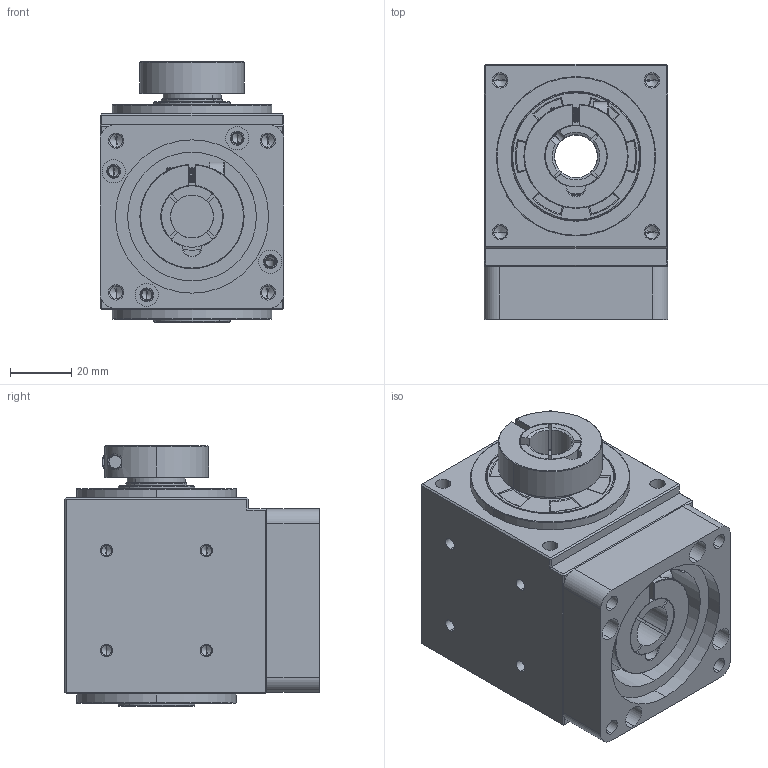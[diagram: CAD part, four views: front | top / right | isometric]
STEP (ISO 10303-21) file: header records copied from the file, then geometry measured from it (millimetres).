
FILE_DESCRIPTION (( 'STEP AP203' ), '1' );
FILE_NAME ('RH60-2(14-50-70-M5).STEP', '2022-03-11T13:48:28', ( '' ), ( '' ), 'SwSTEP 2.0', 'SolidWorks 2016', '' );
FILE_SCHEMA (( 'CONFIG_CONTROL_DESIGN' ));
Length unit declared in the file: millimetre
Products named in the file (8): R60-2(50-70-M5); RH60-2(14-50-70-M5); R60; RH60-(14x13-4x10.5); R60-25x42x5; R60-25x47x5; SN60-34x20x10.5-M5; R60-2-(14)
Assembly tree (8 placements, depth 2):
  RH60-2(14-50-70-M5)
    R60
    R60-25x42x5
    R60-25x47x5
    R60-2(50-70-M5)
    RH60-(14x13-4x10.5)
    R60-2-(14)
    SN60-34x20x10.5-M5  x2
Bounding box: 60 x 83.2 x 85 mm (x, y, z)
Volume: 215381.9 mm3; surface area: 81755.5 mm2
Topology: 10 solids, 10 shells, 842 faces, 2085 edges, 1267 vertices
Faces by surface type: cylinder 401, cone 165, plane 163, bspline 61, torus 52
Entity records: 39847 total; most frequent: CARTESIAN_POINT 23719, ORIENTED_EDGE 3222, DIRECTION 3179, EDGE_CURVE 1611, AXIS2_PLACEMENT_3D 1256, VERTEX_POINT 997, EDGE_LOOP 774, FACE_OUTER_BOUND 687
